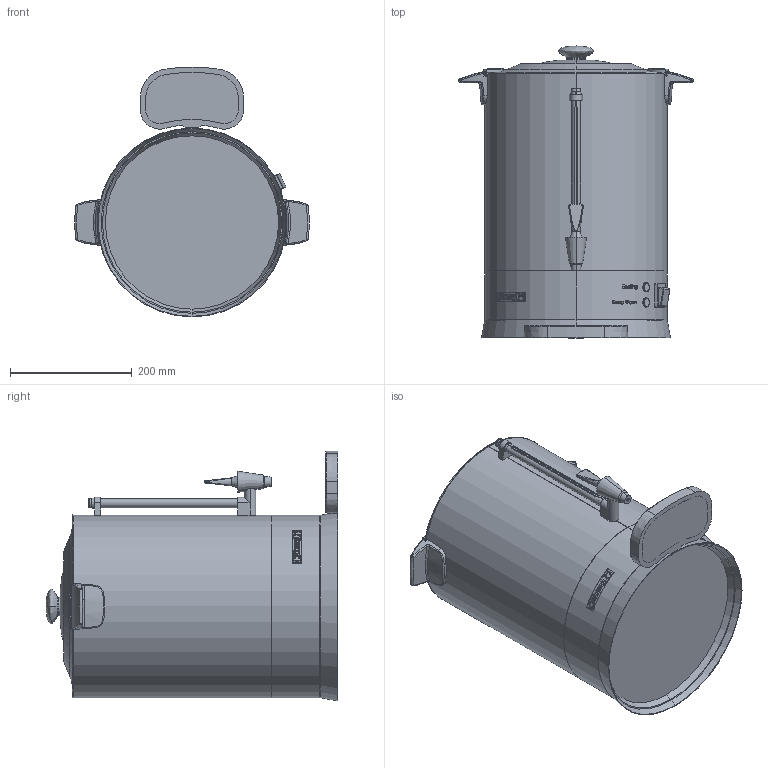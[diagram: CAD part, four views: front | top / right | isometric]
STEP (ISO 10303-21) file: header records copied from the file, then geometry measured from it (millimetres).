
FILE_DESCRIPTION (( 'STEP AP214' ), '1' );
FILE_NAME ('pres-CPC100N.STEP', '2025-02-11T13:55:56', ( '' ), ( '' ), 'SwSTEP 2.0', 'SolidWorks 2025', '' );
FILE_SCHEMA (( 'AUTOMOTIVE_DESIGN' ));
Length unit declared in the file: millimetre
Products named in the file (25): Fixation-p1-couvercle-haut100N; ASS-couvercle-perco100N; Bac-reception-perco; pres-CPC100N; Base-perco100N; Jauge-percoN; Bouton-commande-perco; Poignée-corps-perco100N; Nota-On-perco100N; ASS-corps-perco100N; Nota-heating-perco100N; Support-bas-perco; ASS-base-perco100N; Nota-KeepWarm-perco100N; LOGO-CASSELIN-perco100N; Nota-Off-perco100N; Bouton-perco; Support-haut-perco; ASS-bac-reception; Corps-perco100N; Plaque-reception-perco; Socle-perco100N; couvercle-perco100N; Capuchon-perco; ASS-jauge-percoN
Assembly tree (27 placements, depth 3):
  pres-CPC100N
    Socle-perco100N
    ASS-base-perco100N
      Base-perco100N
      Bouton-perco
      Bouton-commande-perco  x2
      LOGO-CASSELIN-perco100N
      Nota-heating-perco100N
      Nota-KeepWarm-perco100N
      Nota-On-perco100N
      Nota-Off-perco100N
    ASS-corps-perco100N
      Corps-perco100N
      Poignée-corps-perco100N  x2
    ASS-couvercle-perco100N
      couvercle-perco100N
      Fixation-p1-couvercle-haut100N  x2
    ASS-bac-reception
      Bac-reception-perco
      Plaque-reception-perco
    ASS-jauge-percoN
      Jauge-percoN
      Capuchon-perco
      Support-haut-perco
      Support-bas-perco
Bounding box: 385.42 x 480 x 410.83 mm (x, y, z)
Volume: 1674405.5 mm3; surface area: 1305264.7 mm2
Topology: 42 solids, 42 shells, 939 faces, 2380 edges, 1531 vertices
Faces by surface type: bspline 334, cylinder 223, plane 208, torus 103, cone 65, sphere 6
Entity records: 71202 total; most frequent: CARTESIAN_POINT 50654, ORIENTED_EDGE 4330, DIRECTION 2543, EDGE_CURVE 2165, VERTEX_POINT 1404, B_SPLINE_CURVE_WITH_KNOTS 1331, AXIS2_PLACEMENT_3D 1132, EDGE_LOOP 971
